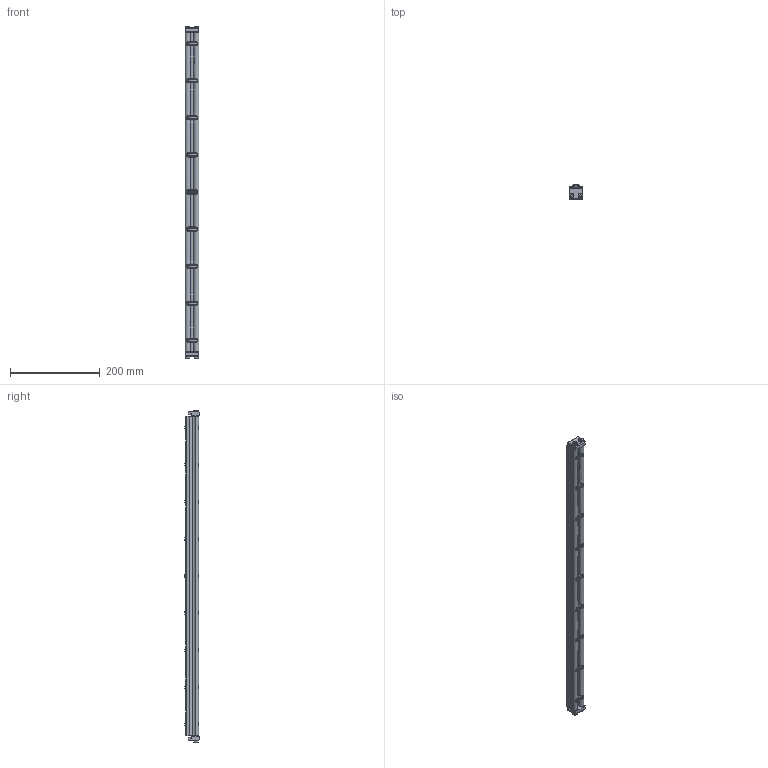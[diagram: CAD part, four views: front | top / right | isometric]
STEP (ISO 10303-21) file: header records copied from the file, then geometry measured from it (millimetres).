
FILE_DESCRIPTION((''),'2;1');
FILE_NAME('324928_ASM','2023-03-14T',('jenni.wallner'),(''),'PRO/ENGINEER BY PARAMETRIC TECHNOLOGY CORPORATION, 2012420','PRO/ENGINEER BY PARAMETRIC TECHNOLOGY CORPORATION, 2012420','');
FILE_SCHEMA(('CONFIG_CONTROL_DESIGN'));
Length unit declared in the file: inch
Products named in the file (7): 240826; 240827_CAE; X920693M; 2410WW_CAE_241028; 2436WW_243628; ASM0001_ASM; 324928_ASM
Assembly tree (18 placements, depth 3):
  324928_ASM
    ASM0001_ASM
      240826  x9
      240827_CAE  x2
      X920693M  x4
      2410WW_CAE_241028
      2436WW_243628
Bounding box: 30.88 x 33.34 x 738.61 mm (x, y, z)
Volume: 351097.9 mm3; surface area: 209089.1 mm2
Topology: 17 solids, 17 shells, 573 faces, 1616 edges, 1067 vertices
Faces by surface type: cylinder 261, plane 200, cone 76, torus 36
Entity records: 14012 total; most frequent: CARTESIAN_POINT 3703, ORIENTED_EDGE 2264, DIRECTION 2085, EDGE_CURVE 1132, AXIS2_PLACEMENT_3D 778, VERTEX_POINT 755, VECTOR 529, LINE 529
